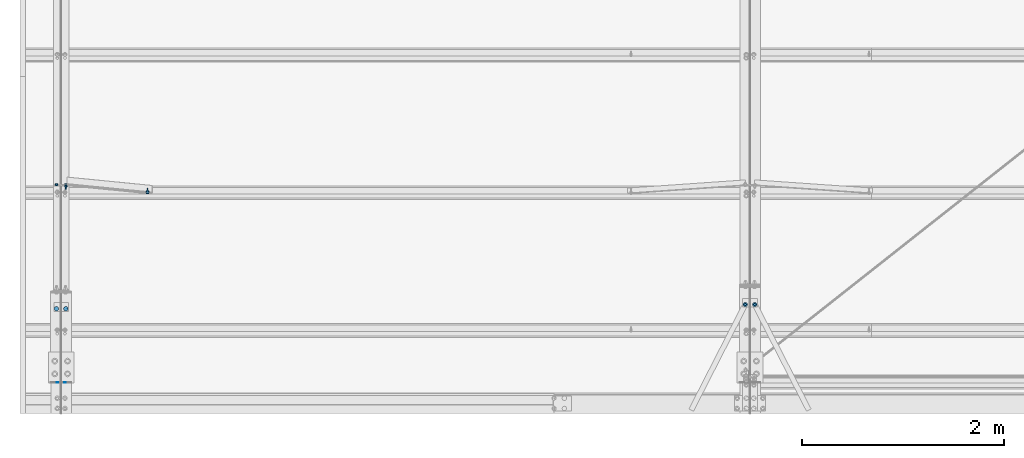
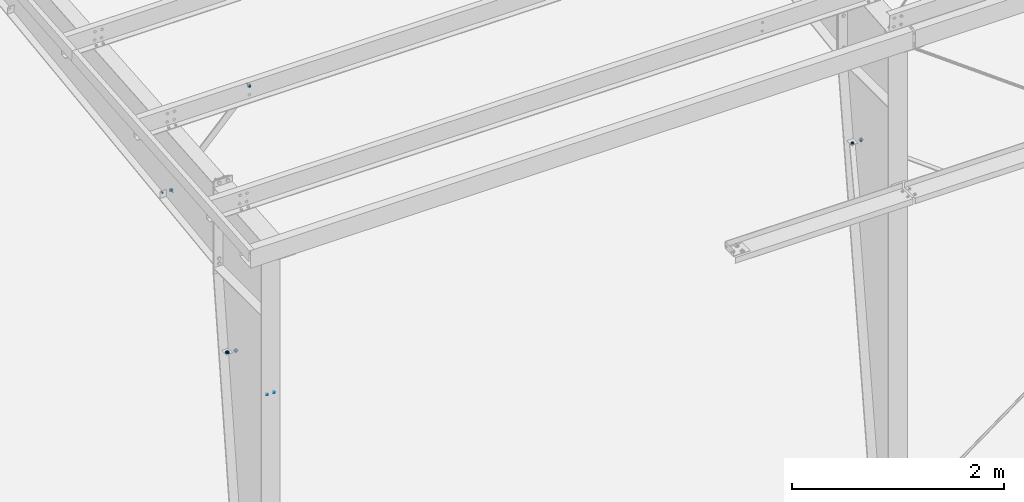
# One storey, part 120 of 185: 11 mechanical fasteners, 6 elements without a shape of their own.
"""IFC2X3 building model written with IfcOpenShell, lengths in millimetres."""

import ifcopenshell
import ifcopenshell.guid

model = None  # the IFC model being written
_history = None  # IfcOwnerHistory: only IFC2X3 demands one
_inside = {}  # id of a spatial element -> (the spatial element, [elements in it])
_under = {}  # id of a project, library or spatial element -> (it, [spatial elements below it])
_declared = {}  # id of a project -> (the project, [libraries it declares])
_typed = {}  # id of a type object -> (the type object, [elements of that type])
_made_of = {}  # id of a material, layer set ... -> (it, [elements and type objects made of it])


def new_model(schema):
    """Start an empty IFC model of exactly this schema.

    Asked for "IFC4X3", IfcOpenShell would pick the latest addendum, in which some entities
    have other attributes; the version numbers below select the first issue.
    IFC2X3 requires an IfcOwnerHistory on every rooted entity: one is made here for all.
    """
    global model, _history
    if schema == "IFC4X3":
        model = ifcopenshell.file(schema_version=(4, 3, 0, 0))
    else:
        model = ifcopenshell.file(schema=schema)
    _inside.clear()
    _under.clear()
    _declared.clear()
    _typed.clear()
    _made_of.clear()
    _history = None
    if model.schema == "IFC2X3":
        org = make("IfcOrganization", Name="unknown")
        user = make(
            "IfcPersonAndOrganization",
            ThePerson=make("IfcPerson", FamilyName="unknown"),
            TheOrganization=org,
        )
        app = make(
            "IfcApplication",
            ApplicationDeveloper=org,
            Version="unknown",
            ApplicationFullName="unknown",
            ApplicationIdentifier="unknown",
        )
        _history = make(
            "IfcOwnerHistory",
            OwningUser=user,
            OwningApplication=app,
            ChangeAction="ADDED",
            CreationDate=0,
        )
    return model


def make(cls, **values):
    """One entity of the class cls with the attributes given. An attribute that is None is left unset."""
    return model.create_entity(
        cls, **{name: value for name, value in values.items() if value is not None}
    )


def rooted(cls, **values):
    """An entity with a GlobalId (a new one), such as an element, a storey or a relation."""
    return make(cls, GlobalId=ifcopenshell.guid.new(), OwnerHistory=_history, **values)


def si_unit(unit_type, name, prefix=None):
    """IfcSIUnit, for example si_unit("LENGTHUNIT", "METRE", prefix="MILLI")."""
    return make("IfcSIUnit", UnitType=unit_type, Prefix=prefix, Name=name)


def assignment(units):
    """IfcUnitAssignment: the units of a project."""
    return None if units is None else make("IfcUnitAssignment", Units=units)


def point(xyz):
    """IfcCartesianPoint."""
    return None if xyz is None else make("IfcCartesianPoint", Coordinates=xyz)


def direction(xyz):
    """IfcDirection."""
    return None if xyz is None else make("IfcDirection", DirectionRatios=xyz)


def frame(location, z_axis=None, x_axis=None):
    """IfcAxis2Placement3D, a coordinate frame: its origin and axes. An axis left out is left unset."""
    return make(
        "IfcAxis2Placement3D",
        Location=point(location),
        Axis=direction(z_axis),
        RefDirection=direction(x_axis),
    )


def frame_2d(location, x_axis=None):
    """IfcAxis2Placement2D, a coordinate frame in the plane: its origin and x axis."""
    return make(
        "IfcAxis2Placement2D", Location=point(location), RefDirection=direction(x_axis)
    )


def origin_with_axes():
    """The frame at (0, 0, 0) with the z axis (0, 0, 1) and the x axis (1, 0, 0) written out."""
    return frame((0.0, 0.0, 0.0), z_axis=(0.0, 0.0, 1.0), x_axis=(1.0, 0.0, 0.0))


def origin_2d_with_axis():
    """The frame at (0, 0) in the plane with the x axis (1, 0) written out."""
    return frame_2d((0.0, 0.0), x_axis=(1.0, 0.0))


def place(relative_to, where):
    """IfcLocalPlacement: puts the frame where relative to a parent placement (None: the world)."""
    return make(
        "IfcLocalPlacement", PlacementRelTo=relative_to, RelativePlacement=where
    )


def context(
    kind, dimensions, precision=None, world=None, true_north=None, identifier=None
):
    """IfcGeometricRepresentationContext, for example the 3D "Model" context."""
    return make(
        "IfcGeometricRepresentationContext",
        ContextIdentifier=identifier,
        ContextType=kind,
        CoordinateSpaceDimension=dimensions,
        Precision=precision,
        WorldCoordinateSystem=world,
        TrueNorth=true_north,
    )


def subcontext(parent, identifier, kind, view, scale=None):
    """IfcGeometricRepresentationSubContext, for example "Body" below "Model"."""
    return make(
        "IfcGeometricRepresentationSubContext",
        ContextIdentifier=identifier,
        ContextType=kind,
        ParentContext=parent,
        TargetScale=scale,
        TargetView=view,
    )


def project(units=None, contexts=None):
    """IfcProject with its units and contexts."""
    return rooted(
        "IfcProject",
        Name="project",
        RepresentationContexts=contexts,
        UnitsInContext=assignment(units),
    )


def spatial(cls, under=None, at=None, **own):
    """A site, building, storey or space (cls), placed at a placement, below another one or the project."""
    s = rooted(cls, ObjectPlacement=at, **own)
    if under is not None:
        _under.setdefault(under.id(), (under, []))[1].append(s)
    return s


def polyline(points):
    """IfcPolyline through the points."""
    return make("IfcPolyline", Points=[point(p) for p in points])


def profile(cls, at=None, kind="AREA", **sizes):
    """A parametric profile (cls). Its sizes go by their IFC names, for example OverallWidth=200.0."""
    return make(cls, ProfileType=kind, Position=at, **sizes)


def circle(**sizes):
    """IfcCircleProfileDef."""
    return profile("IfcCircleProfileDef", **sizes)


def outline(outer, holes=None, kind="AREA"):
    """IfcArbitraryClosedProfileDef: a profile drawn as a closed curve; with holes, ...WithVoids."""
    if holes is None:
        return make("IfcArbitraryClosedProfileDef", ProfileType=kind, OuterCurve=outer)
    return make(
        "IfcArbitraryProfileDefWithVoids",
        ProfileType=kind,
        OuterCurve=outer,
        InnerCurves=holes,
    )


def extrude(swept, where, along, depth):
    """IfcExtrudedAreaSolid: the profile swept, set in the frame where, extruded along a direction by depth."""
    return make(
        "IfcExtrudedAreaSolid",
        SweptArea=swept,
        Position=where,
        ExtrudedDirection=direction(along),
        Depth=depth,
    )


def shape(context_of_items, identifier, shape_type, items):
    """IfcShapeRepresentation: the items that make up one representation, for example the "Body"."""
    return make(
        "IfcShapeRepresentation",
        ContextOfItems=context_of_items,
        RepresentationIdentifier=identifier,
        RepresentationType=shape_type,
        Items=items,
    )


def source(mapping_origin, context_of_items, identifier, shape_type, items):
    """IfcRepresentationMap: a shape defined once, which mapped items show again and again."""
    return make(
        "IfcRepresentationMap",
        MappingOrigin=mapping_origin,
        MappedRepresentation=shape(context_of_items, identifier, shape_type, items),
    )


def transform(
    local_origin,
    x_axis=None,
    y_axis=None,
    z_axis=None,
    scale=None,
    scale2=None,
    scale3=None,
    uniform=True,
):
    """IfcCartesianTransformationOperator3D, or its non-uniform kind. x_axis, y_axis, z_axis: its Axis1, 2, 3."""
    if uniform:
        return make(
            "IfcCartesianTransformationOperator3D",
            Axis1=direction(x_axis),
            Axis2=direction(y_axis),
            LocalOrigin=point(local_origin),
            Scale=scale,
            Axis3=direction(z_axis),
        )
    return make(
        "IfcCartesianTransformationOperator3DnonUniform",
        Axis1=direction(x_axis),
        Axis2=direction(y_axis),
        LocalOrigin=point(local_origin),
        Scale=scale,
        Axis3=direction(z_axis),
        Scale2=scale2,
        Scale3=scale3,
    )


def mapped(mapping_source, mapping_target):
    """IfcMappedItem: shows the shape of a source again, moved by a transform."""
    return make(
        "IfcMappedItem", MappingSource=mapping_source, MappingTarget=mapping_target
    )


def material(Name=None, Category=None):
    """IfcMaterial."""
    return make("IfcMaterial", Name=Name, Category=Category)


def made_of(thing, what):
    """Note that an element or type object is made of a material, layer set ...; save() writes the relation."""
    if what is not None:
        _made_of.setdefault(what.id(), (what, []))[1].append(thing)
    return thing


def type_object(cls, material=None, **own):
    """A type object (cls), such as IfcWallType, which elements share."""
    return made_of(rooted(cls, **own), material)


def element(
    cls,
    number,
    at=None,
    inside=None,
    cuts=None,
    type_object=None,
    material=None,
    context=None,
    identifier="Body",
    shape_type=None,
    held_by="IfcProductDefinitionShape",
    body=None,
    shapes=None,
    **own,
):
    """One element of the class cls, such as IfcWall. Its Tag is "e" and its number.

    at: its placement. inside: the storey or other place that contains it. cuts: it is an
    opening in that element (IfcRelVoidsElement). A single representation is given by context,
    identifier, shape_type and body (its items); several are given by shapes. held_by: the class
    of the entity that holds the representations. save() writes the other relations.
    """
    e = rooted(cls, Tag="e%d" % number, ObjectPlacement=at, **own)
    if body is not None:
        shapes = [shape(context, identifier, shape_type, body)]
    if shapes is not None:
        e.Representation = make(held_by, Representations=shapes)
    if inside is not None:
        _inside.setdefault(inside.id(), (inside, []))[1].append(e)
    if cuts is not None:
        rooted(
            "IfcRelVoidsElement", RelatingBuildingElement=cuts, RelatedOpeningElement=e
        )
    if type_object is not None:
        _typed.setdefault(type_object.id(), (type_object, []))[1].append(e)
    return made_of(e, material)


def aggregate(whole, parts):
    """IfcRelAggregates: a whole, such as a stair, and the parts it consists of."""
    return rooted("IfcRelAggregates", RelatingObject=whole, RelatedObjects=parts)


def save(model, path):
    """Write the relations noted so far, then the file.

    IfcRelAggregates (storeys below a building ...), IfcRelContainedInSpatialStructure (elements
    in a storey), IfcRelDefinesByType, IfcRelAssociatesMaterial and IfcRelDeclares: one each for
    every whole, place, type object, material and project.
    """
    for whole, parts in _under.values():
        aggregate(whole, parts)
    for where, things in _inside.values():
        rooted(
            "IfcRelContainedInSpatialStructure",
            RelatedElements=things,
            RelatingStructure=where,
        )
    for kind, things in _typed.values():
        rooted("IfcRelDefinesByType", RelatedObjects=things, RelatingType=kind)
    for what, things in _made_of.values():
        rooted("IfcRelAssociatesMaterial", RelatedObjects=things, RelatingMaterial=what)
    for by, libraries in _declared.values():
        rooted("IfcRelDeclares", RelatingContext=by, RelatedDefinitions=libraries)
    model.write(path)


model = new_model("IFC2X3")

# Units and contexts
model_context = context("Model", 3, precision=1e-05, world=origin_with_axes())
body_context = subcontext(model_context, "Body", "Model", "MODEL_VIEW")
ifc_project = project(units=[si_unit("LENGTHUNIT", "METRE", prefix="MILLI"), si_unit("AREAUNIT", "SQUARE_METRE"), si_unit("VOLUMEUNIT", "CUBIC_METRE"), si_unit("MASSUNIT", "GRAM", prefix="KILO"), si_unit("TIMEUNIT", "SECOND"), si_unit("PLANEANGLEUNIT", "RADIAN"), si_unit("SOLIDANGLEUNIT", "STERADIAN"), si_unit("THERMODYNAMICTEMPERATUREUNIT", "DEGREE_CELSIUS"), si_unit("LUMINOUSINTENSITYUNIT", "LUMEN")], contexts=[model_context])

# Site, building, storey
site_placement = place(None, origin_with_axes())
site = spatial("IfcSite", under=ifc_project, at=site_placement, Name="Undefined", CompositionType="ELEMENT")
building_placement = place(site_placement, origin_with_axes())
building = spatial("IfcBuilding", under=site, at=building_placement, Name="Undefined", CompositionType="ELEMENT")
storey_placement = place(building_placement, origin_with_axes())
storey = spatial("IfcBuildingStorey", under=building, at=storey_placement, Name="Undefined", CompositionType="ELEMENT", Elevation=0.0)

# Assembly, mechanical fastener
assembly_1_placement = place(storey_placement, origin_with_axes())
assembly_1 = element("IfcElementAssembly", 1, at=assembly_1_placement, inside=storey, Name="Steel Assembly", AssemblyPlace="NOTDEFINED", PredefinedType="RIGID_FRAME")
ifc_material_1 = material(Name="Undefined")
discrete_accessory_type = type_object("IfcDiscreteAccessoryType", Name="Bolt assembly")
shared_shape_1 = source(origin_with_axes(), body_context, "Body", "SweptSolid", [
    extrude(circle(Radius=7.14374971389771, at=origin_2d_with_axis()), frame((0.0, 0.0, 0.0), z_axis=(0.0, 1.0, 0.0), x_axis=(1.0, 0.0, 0.0)), (0.0, 0.0, 1.0), 6.5),
])
mechanical_fastener_1_placement = place(assembly_1_placement, frame((406.4, 304.8, 4127.5), z_axis=(1.0, 0.0, 0.0), x_axis=(0.0, 0.0, -1.0)))
mechanical_fastener_1 = element("IfcMechanicalFastener", 2, at=mechanical_fastener_1_placement, type_object=discrete_accessory_type, material=ifc_material_1, Name="Bolt assembly", NominalDiameter=12.6999998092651, NominalLength=38.0999984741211, context=body_context, shape_type="MappedRepresentation", body=[
    mapped(shared_shape_1, transform((0.0, 0.0, -38.0999984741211))),
    mapped(shared_shape_1, transform((0.0, 0.0, 38.0999984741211))),
])

assembly_2_placement = place(storey_placement, origin_with_axes())
assembly_2 = element("IfcElementAssembly", 3, at=assembly_2_placement, inside=storey, Name="Steel Assembly", AssemblyPlace="NOTDEFINED", PredefinedType="RIGID_FRAME")
shared_shape_2 = source(origin_with_axes(), body_context, "Body", "SweptSolid", [
    extrude(circle(Radius=7.14374971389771, at=origin_2d_with_axis()), frame((0.0, -1.59000001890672, 0.0), z_axis=(0.0, 1.0, 0.0), x_axis=(1.0, 0.0, 0.0)), (0.0, 0.0, 1.0), 1.7),
    extrude(outline(polyline([(10.9985221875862, 0.0), (5.4992610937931, 9.52499961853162), (-5.4992610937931, 9.52499961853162), (-10.9985221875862, 0.0), (-5.4992610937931, -9.52499961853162), (5.4992610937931, -9.52499961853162), (10.9985221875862, 0.0)])), frame((0.0, -15.0837496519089, 0.0), z_axis=(0.0, 1.0, 0.0), x_axis=(1.0, 0.0, 0.0)), (0.0, 0.0, 1.0), 9.5),
    extrude(circle(Radius=6.34999990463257, at=origin_2d_with_axis()), frame((0.0, -5.5587500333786, 0.0), z_axis=(0.0, 1.0, 0.0), x_axis=(1.0, 0.0, 0.0)), (0.0, 0.0, 1.0), 38.1),
    extrude(circle(Radius=13.4937496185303, at=origin_2d_with_axis()), frame((0.0, -5.5587500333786, 0.0), z_axis=(0.0, 1.0, 0.0), x_axis=(1.0, 0.0, 0.0)), (0.0, 0.0, 1.0), 4.0),
    extrude(circle(Radius=22.2250003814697, at=origin_2d_with_axis()), frame((0.0, 0.0, 0.0), z_axis=(0.0, 1.0, 0.0), x_axis=(1.0, 0.0, 0.0)), (0.0, 0.0, 1.0), 7.9),
    extrude(outline(polyline([(12.8316099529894, 0.0), (6.4158049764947, 11.1125001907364), (-6.4158049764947, 11.1125001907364), (-12.8316099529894, 0.0), (-6.4158049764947, -11.1125001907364), (6.4158049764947, -11.1125001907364), (12.8316099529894, 0.0)])), frame((0.0, 7.93750000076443, 0.0), z_axis=(0.0, 1.0, 0.0), x_axis=(1.0, 0.0, 0.0)), (0.0, 0.0, 1.0), 12.3),
])
mechanical_fastener_2_placement = place(assembly_2_placement, frame((7286.28662164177, 1081.76889073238, 4165.1649751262), z_axis=(-0.890301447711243, -0.455371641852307, 0.0), x_axis=(0.455371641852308, -0.890301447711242, 0.0)))
mechanical_fastener_2 = element("IfcMechanicalFastener", 4, at=mechanical_fastener_2_placement, type_object=discrete_accessory_type, material=ifc_material_1, Name="Bolt assembly", NominalDiameter=12.6999998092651, NominalLength=38.0999984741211, context=body_context, shape_type="MappedRepresentation", body=[
    mapped(shared_shape_2, transform((0.0, 0.0, 0.0))),
])
aggregate(assembly_2, [mechanical_fastener_2])

assembly_3_placement = place(storey_placement, origin_with_axes())
assembly_3 = element("IfcElementAssembly", 5, at=assembly_3_placement, inside=storey, Name="Steel Assembly", AssemblyPlace="NOTDEFINED", PredefinedType="RIGID_FRAME")
shared_shape_3 = source(origin_with_axes(), body_context, "Body", "SweptSolid", [
    extrude(circle(Radius=7.14374971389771, at=origin_2d_with_axis()), frame((0.0, 0.0, 0.0), z_axis=(0.0, 1.0, 0.0), x_axis=(1.0, 0.0, 0.0)), (0.0, 0.0, 1.0), 1.7),
    extrude(outline(polyline([(10.9985221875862, 0.0), (5.4992610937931, 9.52499961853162), (-5.4992610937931, 9.52499961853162), (-10.9985221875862, 0.0), (-5.4992610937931, -9.52499961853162), (5.4992610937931, -9.52499961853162), (10.9985221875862, 0.0)])), frame((0.0, -13.4937496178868, 0.0), z_axis=(0.0, 1.0, 0.0), x_axis=(1.0, 0.0, 0.0)), (0.0, 0.0, 1.0), 9.5),
    extrude(circle(Radius=6.34999990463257, at=origin_2d_with_axis()), frame((0.0, -3.96874999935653, 0.0), z_axis=(0.0, 1.0, 0.0), x_axis=(1.0, 0.0, 0.0)), (0.0, 0.0, 1.0), 38.1),
    extrude(circle(Radius=13.4937496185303, at=origin_2d_with_axis()), frame((0.0, -3.96874999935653, 0.0), z_axis=(0.0, 1.0, 0.0), x_axis=(1.0, 0.0, 0.0)), (0.0, 0.0, 1.0), 4.0),
    extrude(circle(Radius=22.2250003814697, at=origin_2d_with_axis()), frame((0.0, 1.5900000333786, 0.0), z_axis=(0.0, 1.0, 0.0), x_axis=(1.0, 0.0, 0.0)), (0.0, 0.0, 1.0), 7.9),
    extrude(outline(polyline([(12.8316099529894, 0.0), (6.4158049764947, 11.1125001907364), (-6.4158049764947, 11.1125001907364), (-12.8316099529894, 0.0), (-6.4158049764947, -11.1125001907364), (6.4158049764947, -11.1125001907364), (12.8316099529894, 0.0)])), frame((0.0, 9.5275000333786, 0.0), z_axis=(0.0, 1.0, 0.0), x_axis=(1.0, 0.0, 0.0)), (0.0, 0.0, 1.0), 12.3),
])
mechanical_fastener_3_placement = place(assembly_3_placement, frame((7191.71337835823, 1081.76889073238, 4165.1649751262), z_axis=(0.890301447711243, -0.455371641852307, 0.0), x_axis=(-0.455371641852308, -0.890301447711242, 0.0)))
mechanical_fastener_3 = element("IfcMechanicalFastener", 6, at=mechanical_fastener_3_placement, type_object=discrete_accessory_type, material=ifc_material_1, Name="Bolt assembly", NominalDiameter=12.6999998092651, NominalLength=38.0999984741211, context=body_context, shape_type="MappedRepresentation", body=[
    mapped(shared_shape_3, transform((0.0, 0.0, 0.0))),
])
aggregate(assembly_3, [mechanical_fastener_3])

assembly_4_placement = place(storey_placement, origin_with_axes())
assembly_4 = element("IfcElementAssembly", 7, at=assembly_4_placement, inside=storey, Name="Steel Assembly", AssemblyPlace="NOTDEFINED", PredefinedType="RIGID_FRAME")
ifc_material_2 = material(Name="7990")
shared_shape_4 = source(origin_with_axes(), body_context, "Body", "SweptSolid", [
    extrude(circle(Radius=7.14374971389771, at=origin_2d_with_axis()), frame((0.0, -3.41600000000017, 0.0), z_axis=(0.0, 1.0, 0.0), x_axis=(1.0, 0.0, 0.0)), (0.0, 0.0, 1.0), 3.5),
    extrude(circle(Radius=11.4299998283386, at=origin_2d_with_axis()), frame((0.0, 0.0, 0.0), z_axis=(0.0, 1.0, 0.0), x_axis=(1.0, 0.0, 0.0)), (0.0, 0.0, 1.0), 4.2),
    extrude(outline(polyline([(12.171698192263, 0.0), (6.08584909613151, 10.5409998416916), (-6.08584909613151, 10.5409998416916), (-12.171698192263, 0.0), (-6.08584909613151, -10.5409998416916), (6.08584909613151, -10.5409998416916), (12.171698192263, 0.0)])), frame((0.0, 4.1909999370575, 0.0), z_axis=(0.0, 1.0, 0.0), x_axis=(1.0, 0.0, 0.0)), (0.0, 0.0, 1.0), 8.4),
])
mechanical_fastener_4_placement = place(assembly_4_placement, frame((7192.16875, 1082.65919218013, 4165.1649751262), z_axis=(0.921635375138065, 0.388057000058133, 0.0), x_axis=(-0.388057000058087, 0.921635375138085, 0.0)))
mechanical_fastener_4 = element("IfcMechanicalFastener", 8, at=mechanical_fastener_4_placement, type_object=discrete_accessory_type, material=ifc_material_2, Name="Bolt assembly", NominalDiameter=12.6999998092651, NominalLength=38.0999984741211, context=body_context, shape_type="MappedRepresentation", body=[
    mapped(shared_shape_4, transform((0.0, 0.0, 0.0))),
])

assembly_5_placement = place(storey_placement, origin_with_axes())
assembly_5 = element("IfcElementAssembly", 9, at=assembly_5_placement, inside=storey, Name="Steel Assembly", AssemblyPlace="NOTDEFINED", PredefinedType="RIGID_FRAME")
mechanical_fastener_5_placement = place(assembly_5_placement, frame((359.568750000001, 2265.56010628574, 5269.13359841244), z_axis=(0.921635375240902, 0.0322263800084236, -0.386716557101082), x_axis=(-0.388056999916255, 0.0765376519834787, -0.9184518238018)))
mechanical_fastener_5 = element("IfcMechanicalFastener", 10, at=mechanical_fastener_5_placement, type_object=discrete_accessory_type, material=ifc_material_2, Name="Bolt assembly", NominalDiameter=12.6999998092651, NominalLength=38.0999984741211, context=body_context, shape_type="MappedRepresentation", body=[
    mapped(shared_shape_4, transform((0.0, 0.0, 0.0))),
])

# Mechanical fastener
shared_shape_5 = source(origin_with_axes(), body_context, "Body", "SweptSolid", [
    extrude(circle(Radius=7.14374971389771, at=origin_2d_with_axis()), frame((0.0, 0.0, 0.0), z_axis=(0.0, 1.0, 0.0), x_axis=(1.0, 0.0, 0.0)), (0.0, 0.0, 1.0), 3.5),
    extrude(circle(Radius=11.4299998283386, at=origin_2d_with_axis()), frame((0.0, 3.41600000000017, 0.0), z_axis=(0.0, 1.0, 0.0), x_axis=(1.0, 0.0, 0.0)), (0.0, 0.0, 1.0), 4.2),
    extrude(outline(polyline([(12.171698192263, 0.0), (6.08584909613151, 10.5409998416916), (-6.08584909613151, 10.5409998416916), (-12.171698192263, 0.0), (-6.08584909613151, -10.5409998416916), (6.08584909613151, -10.5409998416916), (12.171698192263, 0.0)])), frame((0.0, 7.60699993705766, 0.0), z_axis=(0.0, 1.0, 0.0), x_axis=(1.0, 0.0, 0.0)), (0.0, 0.0, 1.0), 8.4),
])
mechanical_fastener_6_placement = place(assembly_4_placement, frame((7285.83125, 1082.65919218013, 4165.1649751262), z_axis=(-0.921635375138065, 0.388057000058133, 0.0), x_axis=(0.388057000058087, 0.921635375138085, 0.0)))
mechanical_fastener_6 = element("IfcMechanicalFastener", 11, at=mechanical_fastener_6_placement, type_object=discrete_accessory_type, material=ifc_material_2, Name="Bolt assembly", NominalDiameter=12.6999998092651, NominalLength=38.0999984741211, context=body_context, shape_type="MappedRepresentation", body=[
    mapped(shared_shape_5, transform((0.0, 0.0, 0.0))),
])

aggregate(assembly_4, [mechanical_fastener_4, mechanical_fastener_6])

mechanical_fastener_7_placement = place(assembly_5_placement, frame((453.231249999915, 2265.56010637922, 5269.13359840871), z_axis=(-0.921635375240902, 0.0322263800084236, -0.386716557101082), x_axis=(0.388056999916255, 0.0765376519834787, -0.9184518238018)))
mechanical_fastener_7 = element("IfcMechanicalFastener", 12, at=mechanical_fastener_7_placement, type_object=discrete_accessory_type, material=ifc_material_2, Name="Bolt assembly", NominalDiameter=12.6999998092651, NominalLength=38.0999984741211, context=body_context, shape_type="MappedRepresentation", body=[
    mapped(shared_shape_5, transform((0.0, 0.0, 0.0))),
])

aggregate(assembly_5, [mechanical_fastener_7, mechanical_fastener_5])

# Assembly, mechanical fastener
assembly_6_placement = place(storey_placement, origin_with_axes())
assembly_6 = element("IfcElementAssembly", 13, at=assembly_6_placement, inside=storey, Name="Steel Assembly", AssemblyPlace="NOTDEFINED", PredefinedType="RIGID_FRAME")
shared_shape_6 = source(origin_with_axes(), body_context, "Body", "SweptSolid", [
    extrude(circle(Radius=7.14374971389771, at=origin_2d_with_axis()), frame((0.0, 0.0, 0.0), z_axis=(0.0, 1.0, 0.0), x_axis=(1.0, 0.0, 0.0)), (0.0, 0.0, 1.0), 6.4),
    extrude(outline(polyline([(12.8316099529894, 0.0), (6.4158049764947, 11.1125001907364), (-6.4158049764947, 11.1125001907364), (-12.8316099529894, 0.0), (-6.4158049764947, -11.1125001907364), (6.4158049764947, -11.1125001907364), (12.8316099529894, 0.0)])), frame((0.0, -7.93749389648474, 0.0), z_axis=(0.0, 1.0, 0.0), x_axis=(1.0, 0.0, 0.0)), (0.0, 0.0, 1.0), 7.9),
    extrude(circle(Radius=6.34999990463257, at=origin_2d_with_axis()), frame((0.0, 0.0, 0.0), z_axis=(0.0, 1.0, 0.0), x_axis=(1.0, 0.0, 0.0)), (0.0, 0.0, 1.0), 50.8),
    extrude(circle(Radius=22.2250003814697, at=origin_2d_with_axis()), frame((0.0, 6.35000000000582, 0.0), z_axis=(0.0, 1.0, 0.0), x_axis=(1.0, 0.0, 0.0)), (0.0, 0.0, 1.0), 7.9),
    extrude(outline(polyline([(12.8316099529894, 0.0), (6.4158049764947, 11.1125001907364), (-6.4158049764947, 11.1125001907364), (-12.8316099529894, 0.0), (-6.4158049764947, -11.1125001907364), (6.4158049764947, -11.1125001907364), (12.8316099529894, 0.0)])), frame((0.0, 14.2875000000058, 0.0), z_axis=(0.0, 1.0, 0.0), x_axis=(1.0, 0.0, 0.0)), (0.0, 0.0, 1.0), 12.3),
])
mechanical_fastener_8_placement = place(assembly_6_placement, frame((1263.11, 2185.72394138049, 6227.16757842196), z_axis=(0.764786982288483, 0.0535048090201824, -0.642057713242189), x_axis=(-0.644283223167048, 0.0635121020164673, -0.762145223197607)))
mechanical_fastener_8 = element("IfcMechanicalFastener", 14, at=mechanical_fastener_8_placement, type_object=discrete_accessory_type, material=ifc_material_1, Name="Bolt assembly", NominalDiameter=12.6999998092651, NominalLength=50.7999992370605, context=body_context, shape_type="MappedRepresentation", body=[
    mapped(shared_shape_6, transform((0.0, 0.0, 0.0))),
])

# Mechanical fastener
shared_shape_7 = source(origin_with_axes(), body_context, "Body", "SweptSolid", [
    extrude(circle(Radius=7.14374971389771, at=origin_2d_with_axis()), frame((0.0, -5.00379999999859, 0.0), z_axis=(0.0, 1.0, 0.0), x_axis=(1.0, 0.0, 0.0)), (0.0, 0.0, 1.0), 3.5),
    extrude(outline(polyline([(10.9985221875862, 0.0), (5.4992610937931, 9.52499961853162), (-5.4992610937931, 9.52499961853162), (-10.9985221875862, 0.0), (-5.4992610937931, -9.52499961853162), (5.4992610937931, -9.52499961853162), (10.9985221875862, 0.0)])), frame((0.0, -18.4975496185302, 0.0), z_axis=(0.0, 1.0, 0.0), x_axis=(1.0, 0.0, 0.0)), (0.0, 0.0, 1.0), 9.5),
    extrude(circle(Radius=6.34999990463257, at=origin_2d_with_axis()), frame((0.0, -8.97254999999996, 0.0), z_axis=(0.0, 1.0, 0.0), x_axis=(1.0, 0.0, 0.0)), (0.0, 0.0, 1.0), 38.1),
    extrude(circle(Radius=13.4937496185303, at=origin_2d_with_axis()), frame((0.0, -8.97254999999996, 0.0), z_axis=(0.0, 1.0, 0.0), x_axis=(1.0, 0.0, 0.0)), (0.0, 0.0, 1.0), 4.0),
    extrude(circle(Radius=22.2250003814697, at=origin_2d_with_axis()), frame((0.0, -1.58749999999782, 0.0), z_axis=(0.0, 1.0, 0.0), x_axis=(1.0, 0.0, 0.0)), (0.0, 0.0, 1.0), 7.9),
    extrude(outline(polyline([(12.8316099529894, 0.0), (6.4158049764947, 11.1125001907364), (-6.4158049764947, 11.1125001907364), (-12.8316099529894, 0.0), (-6.4158049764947, -11.1125001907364), (6.4158049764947, -11.1125001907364), (12.8316099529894, 0.0)])), frame((0.0, 6.35000000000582, 0.0), z_axis=(0.0, 1.0, 0.0), x_axis=(1.0, 0.0, 0.0)), (0.0, 0.0, 1.0), 12.3),
])
mechanical_fastener_9_placement = place(assembly_1_placement, frame((453.231250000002, 1040.14379748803, 4163.64946424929), z_axis=(0.858185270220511, 0.513340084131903, 0.0), x_axis=(0.513340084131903, -0.858185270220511, 0.0)))
mechanical_fastener_9 = element("IfcMechanicalFastener", 15, at=mechanical_fastener_9_placement, type_object=discrete_accessory_type, material=ifc_material_1, Name="Bolt assembly", NominalDiameter=12.6999998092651, NominalLength=38.0999984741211, context=body_context, shape_type="MappedRepresentation", body=[
    mapped(shared_shape_7, transform((0.0, 0.0, 0.0))),
])

shared_shape_8 = source(origin_with_axes(), body_context, "Body", "SweptSolid", [
    extrude(circle(Radius=7.14374971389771, at=origin_2d_with_axis()), frame((0.0, 0.0, 0.0), z_axis=(0.0, 1.0, 0.0), x_axis=(1.0, 0.0, 0.0)), (0.0, 0.0, 1.0), 3.5),
    extrude(circle(Radius=22.2250003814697, at=origin_2d_with_axis()), frame((0.0, 3.41629999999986, 0.0), z_axis=(0.0, 1.0, 0.0), x_axis=(1.0, 0.0, 0.0)), (0.0, 0.0, 1.0), 7.9),
    extrude(outline(polyline([(12.8316099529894, 0.0), (6.4158049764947, 11.1125001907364), (-6.4158049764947, 11.1125001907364), (-12.8316099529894, 0.0), (-6.4158049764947, -11.1125001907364), (6.4158049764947, -11.1125001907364), (12.8316099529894, 0.0)])), frame((0.0, 11.3537999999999, 0.0), z_axis=(0.0, 1.0, 0.0), x_axis=(1.0, 0.0, 0.0)), (0.0, 0.0, 1.0), 12.3),
])
mechanical_fastener_10_placement = place(assembly_1_placement, frame((359.568750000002, 1040.14379748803, 4165.23696424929), z_axis=(0.0, 1.0, 0.0), x_axis=(-1.0, 0.0, 0.0)))
mechanical_fastener_10 = element("IfcMechanicalFastener", 16, at=mechanical_fastener_10_placement, type_object=discrete_accessory_type, material=ifc_material_1, Name="Bolt assembly", NominalDiameter=12.6999998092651, NominalLength=50.7999992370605, context=body_context, shape_type="MappedRepresentation", body=[
    mapped(shared_shape_8, transform((0.0, 0.0, 0.0))),
])

aggregate(assembly_1, [mechanical_fastener_1, mechanical_fastener_9, mechanical_fastener_10])

shared_shape_9 = source(origin_with_axes(), body_context, "Body", "SweptSolid", [
    extrude(circle(Radius=7.14374971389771, at=origin_2d_with_axis()), frame((0.0, -6.34999953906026, 0.0), z_axis=(0.0, 1.0, 0.0), x_axis=(1.0, 0.0, 0.0)), (0.0, 0.0, 1.0), 6.4),
    extrude(outline(polyline([(12.8316099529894, 0.0), (6.4158049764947, 11.1125001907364), (-6.4158049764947, 11.1125001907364), (-12.8316099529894, 0.0), (-6.4158049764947, -11.1125001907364), (6.4158049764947, -11.1125001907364), (12.8316099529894, 0.0)])), frame((0.0, -14.2874996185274, 0.0), z_axis=(0.0, 1.0, 0.0), x_axis=(1.0, 0.0, 0.0)), (0.0, 0.0, 1.0), 7.9),
    extrude(circle(Radius=6.34999990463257, at=origin_2d_with_axis()), frame((0.0, -6.34999953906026, 0.0), z_axis=(0.0, 1.0, 0.0), x_axis=(1.0, 0.0, 0.0)), (0.0, 0.0, 1.0), 50.8),
    extrude(circle(Radius=22.2250003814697, at=origin_2d_with_axis()), frame((0.0, 0.0, 0.0), z_axis=(0.0, 1.0, 0.0), x_axis=(1.0, 0.0, 0.0)), (0.0, 0.0, 1.0), 7.9),
    extrude(outline(polyline([(12.8316099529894, 0.0), (6.4158049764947, 11.1125001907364), (-6.4158049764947, 11.1125001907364), (-12.8316099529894, 0.0), (-6.4158049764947, -11.1125001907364), (6.4158049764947, -11.1125001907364), (12.8316099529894, 0.0)])), frame((0.0, 7.93750000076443, 0.0), z_axis=(0.0, 1.0, 0.0), x_axis=(1.0, 0.0, 0.0)), (0.0, 0.0, 1.0), 12.3),
])
mechanical_fastener_11_placement = place(assembly_6_placement, frame((453.231249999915, 2265.56010637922, 5269.13359840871), z_axis=(0.764786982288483, 0.0535048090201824, -0.642057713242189), x_axis=(0.644283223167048, -0.0635121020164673, 0.762145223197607)))
mechanical_fastener_11 = element("IfcMechanicalFastener", 17, at=mechanical_fastener_11_placement, type_object=discrete_accessory_type, material=ifc_material_1, Name="Bolt assembly", NominalDiameter=12.6999998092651, NominalLength=50.7999992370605, context=body_context, shape_type="MappedRepresentation", body=[
    mapped(shared_shape_9, transform((0.0, 0.0, 0.0))),
])

aggregate(assembly_6, [mechanical_fastener_8, mechanical_fastener_11])

save(model, "model.ifc")
